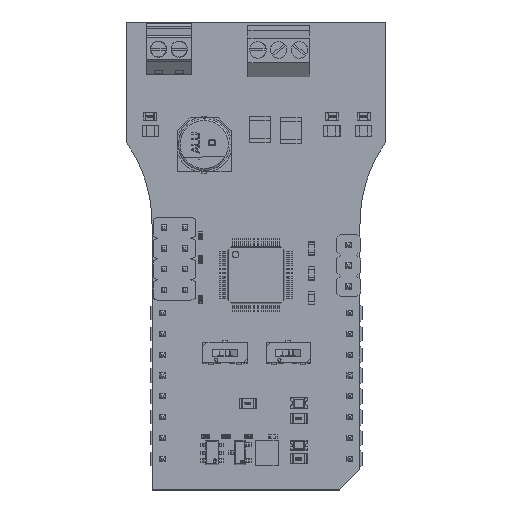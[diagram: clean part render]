
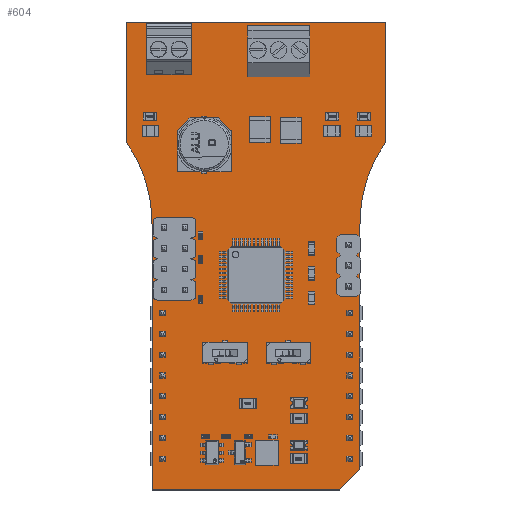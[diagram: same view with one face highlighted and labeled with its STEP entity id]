
A CAD part, top view. The second image highlights one B-rep face of the part: STEP entity #604.
In plain terms, the highlighted planar face has unit normal (0, 0, 1).
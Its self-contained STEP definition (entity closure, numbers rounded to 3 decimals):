
#311 = VERTEX_POINT('',#312);
#312 = CARTESIAN_POINT('',(-1.27,-3.81,0.));
#318 = EDGE_CURVE('',#311,#319,#321,.T.);
#319 = VERTEX_POINT('',#320);
#320 = CARTESIAN_POINT('',(-1.27,28.575,0.));
#321 = LINE('',#322,#323);
#322 = CARTESIAN_POINT('',(-1.27,-3.81,0.));
#323 = VECTOR('',#324,1.);
#324 = DIRECTION('',(0.,1.,0.));
#349 = EDGE_CURVE('',#319,#350,#352,.T.);
#350 = VERTEX_POINT('',#351);
#351 = CARTESIAN_POINT('',(-4.445,38.735,0.));
#352 = CIRCLE('',#353,16.826);
#353 = AXIS2_PLACEMENT_3D('',#354,#355,#356);
#354 = CARTESIAN_POINT('',(-18.093,28.894,0.));
#355 = DIRECTION('',(0.,0.,1.));
#356 = DIRECTION('',(1.,-0.019,0.));
#382 = EDGE_CURVE('',#350,#383,#385,.T.);
#383 = VERTEX_POINT('',#384);
#384 = CARTESIAN_POINT('',(-4.445,53.34,0.));
#385 = LINE('',#386,#387);
#386 = CARTESIAN_POINT('',(-4.445,38.735,0.));
#387 = VECTOR('',#388,1.);
#388 = DIRECTION('',(0.,1.,0.));
#413 = EDGE_CURVE('',#383,#414,#416,.T.);
#414 = VERTEX_POINT('',#415);
#415 = CARTESIAN_POINT('',(27.305,53.34,0.));
#416 = LINE('',#417,#418);
#417 = CARTESIAN_POINT('',(-4.445,53.34,0.));
#418 = VECTOR('',#419,1.);
#419 = DIRECTION('',(1.,0.,0.));
#444 = EDGE_CURVE('',#414,#445,#447,.T.);
#445 = VERTEX_POINT('',#446);
#446 = CARTESIAN_POINT('',(27.305,38.735,0.));
#447 = LINE('',#448,#449);
#448 = CARTESIAN_POINT('',(27.305,53.34,0.));
#449 = VECTOR('',#450,1.);
#450 = DIRECTION('',(0.,-1.,0.));
#475 = EDGE_CURVE('',#445,#476,#478,.T.);
#476 = VERTEX_POINT('',#477);
#477 = CARTESIAN_POINT('',(24.13,28.575,0.));
#478 = CIRCLE('',#479,16.826);
#479 = AXIS2_PLACEMENT_3D('',#480,#481,#482);
#480 = CARTESIAN_POINT('',(40.953,28.894,0.));
#481 = DIRECTION('',(0.,0.,1.));
#482 = DIRECTION('',(-0.811,0.585,0.));
#508 = EDGE_CURVE('',#476,#509,#511,.T.);
#509 = VERTEX_POINT('',#510);
#510 = CARTESIAN_POINT('',(24.13,-1.27,0.));
#511 = LINE('',#512,#513);
#512 = CARTESIAN_POINT('',(24.13,28.575,0.));
#513 = VECTOR('',#514,1.);
#514 = DIRECTION('',(0.,-1.,0.));
#539 = EDGE_CURVE('',#509,#540,#542,.T.);
#540 = VERTEX_POINT('',#541);
#541 = CARTESIAN_POINT('',(21.59,-3.81,0.));
#542 = LINE('',#543,#544);
#543 = CARTESIAN_POINT('',(24.13,-1.27,0.));
#544 = VECTOR('',#545,1.);
#545 = DIRECTION('',(-0.707,-0.707,0.));
#570 = EDGE_CURVE('',#540,#311,#571,.T.);
#571 = LINE('',#572,#573);
#572 = CARTESIAN_POINT('',(21.59,-3.81,0.));
#573 = VECTOR('',#574,1.);
#574 = DIRECTION('',(-1.,0.,0.));
#604 = ADVANCED_FACE('',(#605),#616,.F.);
#605 = FACE_BOUND('',#606,.F.);
#606 = EDGE_LOOP('',(#607,#608,#609,#610,#611,#612,#613,#614,#615));
#607 = ORIENTED_EDGE('',*,*,#318,.T.);
#608 = ORIENTED_EDGE('',*,*,#349,.T.);
#609 = ORIENTED_EDGE('',*,*,#382,.T.);
#610 = ORIENTED_EDGE('',*,*,#413,.T.);
#611 = ORIENTED_EDGE('',*,*,#444,.T.);
#612 = ORIENTED_EDGE('',*,*,#475,.T.);
#613 = ORIENTED_EDGE('',*,*,#508,.T.);
#614 = ORIENTED_EDGE('',*,*,#539,.T.);
#615 = ORIENTED_EDGE('',*,*,#570,.T.);
#616 = PLANE('',#617);
#617 = AXIS2_PLACEMENT_3D('',#618,#619,#620);
#618 = CARTESIAN_POINT('',(-1.27,-3.81,0.));
#619 = DIRECTION('',(0.,0.,-1.));
#620 = DIRECTION('',(-1.,0.,0.));
